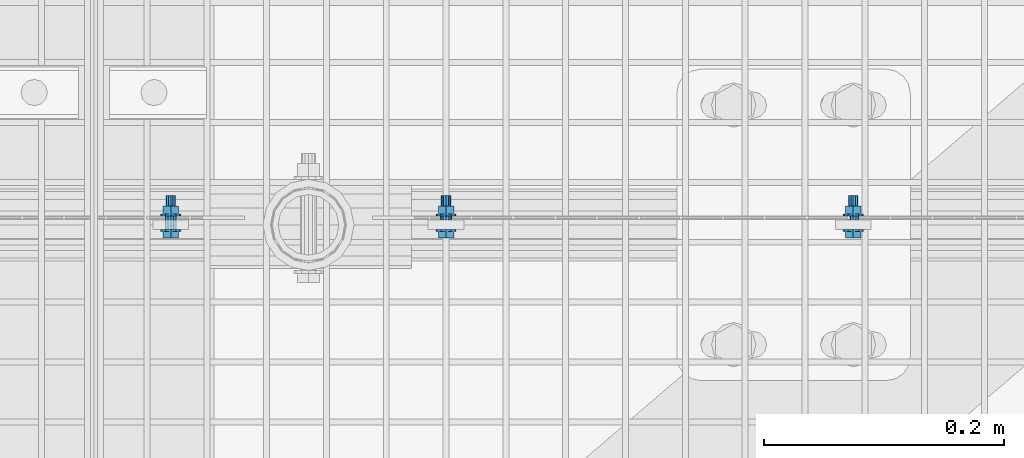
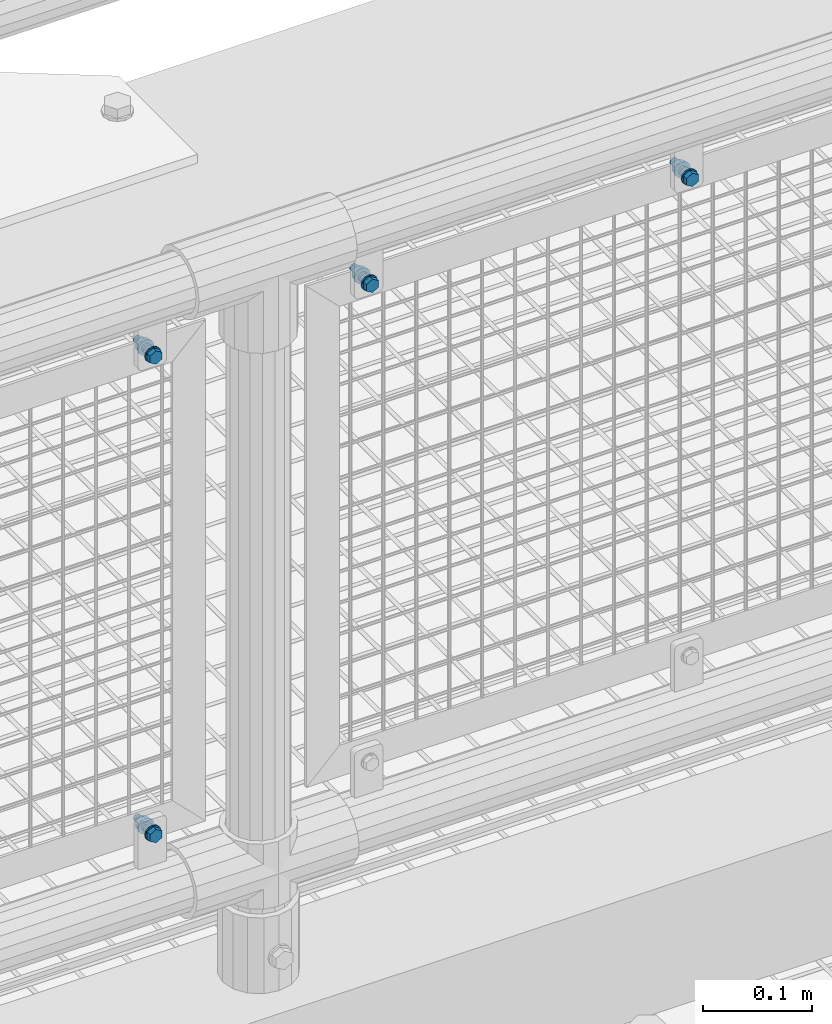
# One storey, part 81 of 1530: 4 mechanical fasteners.
"""IFC2X3 building model written with IfcOpenShell, lengths in millimetres."""

from ifc_helpers import new_model, si_unit, frame, origin_with_axes, place, context, subcontext, project, spatial, faceted_brep, source, transform, mapped, material, type_object, element, save


model = new_model("IFC2X3")

# Units and contexts
model_context = context("Model", 3, precision=1e-05, world=origin_with_axes())
body_context = subcontext(model_context, "Body", "Model", "MODEL_VIEW")
ifc_project = project(units=[si_unit("LENGTHUNIT", "METRE", prefix="MILLI"), si_unit("AREAUNIT", "SQUARE_METRE"), si_unit("VOLUMEUNIT", "CUBIC_METRE"), si_unit("MASSUNIT", "GRAM", prefix="KILO"), si_unit("TIMEUNIT", "SECOND"), si_unit("PLANEANGLEUNIT", "RADIAN"), si_unit("SOLIDANGLEUNIT", "STERADIAN"), si_unit("THERMODYNAMICTEMPERATUREUNIT", "DEGREE_CELSIUS"), si_unit("LUMINOUSINTENSITYUNIT", "LUMEN")], contexts=[model_context])

# Site, building, storey
site_placement = place(None, origin_with_axes())
site = spatial("IfcSite", under=ifc_project, at=site_placement, Name="Brattvåg", CompositionType="ELEMENT")
building_placement = place(site_placement, origin_with_axes())
building = spatial("IfcBuilding", under=site, at=building_placement, Name="Undefined", CompositionType="ELEMENT")
storey_placement = place(building_placement, origin_with_axes())
storey = spatial("IfcBuildingStorey", under=building, at=storey_placement, Name="Undefined", CompositionType="ELEMENT", Elevation=0.0)

# Mechanical fasteners
ifc_material = material(Name="8")
mechanical_fastener_type = type_object("IfcMechanicalFastenerType", Name="Bolt assembly")
shared_shape_1 = source(origin_with_axes(), body_context, "Body", "Brep", [
    faceted_brep([(7.50555349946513, -6.90000021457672, 0.0), (3.75277674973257, -6.90000021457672, 6.5), (-3.75277674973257, -6.90000021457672, 6.5), (-7.50555349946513, -6.90000021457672, 9.19165206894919e-16), (-3.75277674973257, -6.90000021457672, -6.5), (3.75277674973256, -6.90000021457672, -6.5), (3.75277674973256, -1.60000002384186, -6.5), (-3.75277674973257, -1.60000002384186, -6.5), (-7.50555349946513, -1.60000002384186, 9.19165206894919e-16), (-3.75277674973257, -1.60000002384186, 6.5), (3.75277674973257, -1.60000002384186, 6.5), (7.50555349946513, -1.60000002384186, 0.0), (4.0, -1.60000002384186, 0.0), (3.46410161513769, -1.60000002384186, 2.00000000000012), (1.99999999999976, -1.60000002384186, 3.46410161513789), (-4.14534392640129e-13, -1.60000002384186, 4.0), (-2.00000000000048, -1.60000002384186, 3.46410161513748), (-3.4641016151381, -1.60000002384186, 1.9999999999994), (-4.0, -1.60000002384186, -8.29068785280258e-13), (-3.46410161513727, -1.60000002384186, -2.00000000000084), (-1.99999999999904, -1.60000002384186, -3.46410161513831), (1.23916228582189e-12, -1.60000002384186, -4.0), (2.00000000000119, -1.60000002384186, -3.46410161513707), (3.46410161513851, -1.60000002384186, -1.99999999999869), (3.46410161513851, 28.3999999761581, -1.99999999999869), (2.00000000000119, 28.3999999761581, -3.46410161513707), (1.23916228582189e-12, 28.3999999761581, -4.0), (-1.99999999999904, 28.3999999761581, -3.46410161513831), (-3.46410161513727, 28.3999999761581, -2.00000000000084), (-4.0, 28.3999999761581, -8.29068785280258e-13), (-3.4641016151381, 28.3999999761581, 1.9999999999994), (-2.00000000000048, 28.3999999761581, 3.46410161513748), (-4.14534392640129e-13, 28.3999999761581, 4.0), (1.99999999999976, 28.3999999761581, 3.46410161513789), (3.46410161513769, 28.3999999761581, 2.00000000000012), (4.0, 28.3999999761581, 0.0), (8.5, -1.60000002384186, 0.0), (7.36121593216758, -1.60000002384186, 4.25000000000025), (4.24999999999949, -1.60000002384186, 7.36121593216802), (-8.80885584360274e-13, -1.60000002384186, 8.5), (-4.25000000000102, -1.60000002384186, 7.36121593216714), (-7.36121593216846, -1.60000002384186, 4.24999999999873), (-8.5, -1.60000002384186, -1.76177116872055e-12), (-7.3612159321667, -1.60000002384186, -4.25000000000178), (-4.24999999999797, -1.60000002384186, -7.3612159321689), (2.63321985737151e-12, -1.60000002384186, -8.5), (4.25000000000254, -1.60000002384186, -7.36121593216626), (7.36121593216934, -1.60000002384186, -4.24999999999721), (7.36121593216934, 0.0, -4.24999999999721), (4.25000000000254, 0.0, -7.36121593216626), (2.63321985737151e-12, 0.0, -8.5), (-4.24999999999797, 0.0, -7.3612159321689), (-7.3612159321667, 0.0, -4.25000000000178), (-8.5, 0.0, -1.76177116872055e-12), (-7.36121593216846, 0.0, 4.24999999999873), (-4.25000000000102, 0.0, 7.36121593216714), (-8.80885584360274e-13, 0.0, 8.5), (4.24999999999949, 0.0, 7.36121593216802), (7.36121593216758, 0.0, 4.25000000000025), (8.5, 0.0, 0.0), (8.5, 11.5015258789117, 0.0), (7.36121593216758, 11.5015258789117, 4.25000000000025), (4.24999999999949, 11.5015258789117, 7.36121593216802), (-8.80885584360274e-13, 11.5015258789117, 8.5), (-4.25000000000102, 11.5015258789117, 7.36121593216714), (-7.36121593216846, 11.5015258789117, 4.24999999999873), (-8.5, 11.5015258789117, -1.76177116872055e-12), (-7.3612159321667, 11.5015258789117, -4.25000000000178), (-4.24999999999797, 11.5015258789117, -7.3612159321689), (2.63321985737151e-12, 11.5015258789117, -8.5), (4.25000000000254, 11.5015258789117, -7.36121593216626), (7.36121593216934, 11.5015258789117, -4.24999999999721), (7.36121593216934, 13.1015259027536, -4.24999999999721), (4.25000000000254, 13.1015259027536, -7.36121593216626), (2.63321985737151e-12, 13.1015259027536, -8.5), (-4.24999999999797, 13.1015259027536, -7.3612159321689), (-7.3612159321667, 13.1015259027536, -4.25000000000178), (-8.5, 13.1015259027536, -1.76177116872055e-12), (-7.36121593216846, 13.1015259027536, 4.24999999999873), (-4.25000000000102, 13.1015259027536, 7.36121593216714), (-8.80885584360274e-13, 13.1015259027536, 8.5), (4.24999999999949, 13.1015259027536, 7.36121593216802), (7.36121593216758, 13.1015259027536, 4.25000000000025), (8.5, 13.1015259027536, 0.0), (7.50555349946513, 13.1015259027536, 0.0), (3.75277674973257, 13.1015259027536, 6.5), (-3.75277674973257, 13.1015259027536, 6.5), (-7.50555349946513, 13.1015259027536, 9.19165206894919e-16), (-3.75277674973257, 13.1015259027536, -6.5), (3.75277674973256, 13.1015259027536, -6.5), (3.75277674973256, 19.9015260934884, -6.5), (-3.75277674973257, 19.9015260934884, -6.5), (-7.50555349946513, 19.9015260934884, 9.19165206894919e-16), (-3.75277674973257, 19.9015260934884, 6.5), (3.75277674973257, 19.9015260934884, 6.5), (7.50555349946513, 19.9015260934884, 0.0)], [[[0, 1, 2, 3, 4, 5]], [[6, 7, 8, 9, 10, 11]], [[0, 11, 10, 1]], [[1, 10, 9, 2]], [[2, 9, 8, 3]], [[3, 8, 7, 4]], [[4, 7, 6, 5]], [[5, 6, 11, 0]], [[12, 13, 14, 15, 16, 17, 18, 19, 20, 21, 22, 23]], [[24, 25, 26, 27, 28, 29, 30, 31, 32, 33, 34, 35]], [[12, 35, 34, 13]], [[13, 34, 33, 14]], [[14, 33, 32, 15]], [[15, 32, 31, 16]], [[16, 31, 30, 17]], [[17, 30, 29, 18]], [[18, 29, 28, 19]], [[19, 28, 27, 20]], [[20, 27, 26, 21]], [[21, 26, 25, 22]], [[22, 25, 24, 23]], [[23, 24, 35, 12]], [[36, 37, 38, 39, 40, 41, 42, 43, 44, 45, 46, 47]], [[48, 49, 50, 51, 52, 53, 54, 55, 56, 57, 58, 59]], [[36, 59, 58, 37]], [[37, 58, 57, 38]], [[38, 57, 56, 39]], [[39, 56, 55, 40]], [[40, 55, 54, 41]], [[41, 54, 53, 42]], [[42, 53, 52, 43]], [[43, 52, 51, 44]], [[44, 51, 50, 45]], [[45, 50, 49, 46]], [[46, 49, 48, 47]], [[47, 48, 59, 36]], [[60, 61, 62, 63, 64, 65, 66, 67, 68, 69, 70, 71]], [[72, 73, 74, 75, 76, 77, 78, 79, 80, 81, 82, 83]], [[60, 83, 82, 61]], [[61, 82, 81, 62]], [[62, 81, 80, 63]], [[63, 80, 79, 64]], [[64, 79, 78, 65]], [[65, 78, 77, 66]], [[66, 77, 76, 67]], [[67, 76, 75, 68]], [[68, 75, 74, 69]], [[69, 74, 73, 70]], [[70, 73, 72, 71]], [[71, 72, 83, 60]], [[84, 85, 86, 87, 88, 89]], [[90, 91, 92, 93, 94, 95]], [[84, 95, 94, 85]], [[85, 94, 93, 86]], [[86, 93, 92, 87]], [[87, 92, 91, 88]], [[88, 91, 90, 89]], [[89, 90, 95, 84]]]),
    faceted_brep([(5.0, 0.1, 0.0), (4.33012701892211, 0.1, 2.50000000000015), (2.4999999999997, 0.1, 4.33012701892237), (-5.18167990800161e-13, 0.1, 5.0), (-2.5000000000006, 0.1, 4.33012701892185), (-4.33012701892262, 0.1, 2.49999999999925), (-5.0, 0.1, -1.03633598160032e-12), (-4.33012701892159, 0.1, -2.50000000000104), (-2.49999999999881, 0.1, -4.33012701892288), (1.54895285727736e-12, 0.1, -5.0), (2.50000000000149, 0.1, -4.33012701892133), (4.33012701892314, 0.1, -2.49999999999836), (4.33012701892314, 8.1, -2.49999999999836), (2.50000000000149, 8.1, -4.33012701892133), (1.54895285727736e-12, 8.1, -5.0), (-2.49999999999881, 8.1, -4.33012701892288), (-4.33012701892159, 8.1, -2.50000000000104), (-5.0, 8.1, -1.03633598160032e-12), (-4.33012701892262, 8.1, 2.49999999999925), (-2.5000000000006, 8.1, 4.33012701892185), (-5.18167990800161e-13, 8.1, 5.0), (2.4999999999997, 8.1, 4.33012701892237), (4.33012701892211, 8.1, 2.50000000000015), (5.0, 8.1, 0.0), (5.0, 8.40152587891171, 0.0), (4.33012701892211, 8.40152587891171, 2.50000000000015), (2.4999999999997, 8.40152587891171, 4.33012701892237), (-5.18167990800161e-13, 8.40152587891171, 5.0), (-2.5000000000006, 8.40152587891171, 4.33012701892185), (-4.33012701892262, 8.40152587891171, 2.49999999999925), (-5.0, 8.40152587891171, -1.03633598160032e-12), (-4.33012701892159, 8.40152587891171, -2.50000000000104), (-2.49999999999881, 8.40152587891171, -4.33012701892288), (1.54895285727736e-12, 8.40152587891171, -5.0), (2.50000000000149, 8.40152587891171, -4.33012701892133), (4.33012701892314, 8.40152587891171, -2.49999999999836), (4.33012701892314, 11.5015258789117, -2.49999999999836), (2.50000000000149, 11.5015258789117, -4.33012701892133), (1.54895285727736e-12, 11.5015258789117, -5.0), (-2.49999999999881, 11.5015258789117, -4.33012701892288), (-4.33012701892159, 11.5015258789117, -2.50000000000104), (-5.0, 11.5015258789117, -1.03633598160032e-12), (-4.33012701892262, 11.5015258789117, 2.49999999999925), (-2.5000000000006, 11.5015258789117, 4.33012701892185), (-5.18167990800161e-13, 11.5015258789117, 5.0), (2.4999999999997, 11.5015258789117, 4.33012701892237), (4.33012701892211, 11.5015258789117, 2.50000000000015), (5.0, 11.5015258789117, 0.0)], [[[0, 1, 2, 3, 4, 5, 6, 7, 8, 9, 10, 11]], [[12, 13, 14, 15, 16, 17, 18, 19, 20, 21, 22, 23]], [[0, 23, 22, 1]], [[1, 22, 21, 2]], [[2, 21, 20, 3]], [[3, 20, 19, 4]], [[4, 19, 18, 5]], [[5, 18, 17, 6]], [[6, 17, 16, 7]], [[7, 16, 15, 8]], [[8, 15, 14, 9]], [[9, 14, 13, 10]], [[10, 13, 12, 11]], [[11, 12, 23, 0]], [[24, 25, 26, 27, 28, 29, 30, 31, 32, 33, 34, 35]], [[36, 37, 38, 39, 40, 41, 42, 43, 44, 45, 46, 47]], [[24, 47, 46, 25]], [[25, 46, 45, 26]], [[26, 45, 44, 27]], [[27, 44, 43, 28]], [[28, 43, 42, 29]], [[29, 42, 41, 30]], [[30, 41, 40, 31]], [[31, 40, 39, 32]], [[32, 39, 38, 33]], [[33, 38, 37, 34]], [[34, 37, 36, 35]], [[35, 36, 47, 24]]]),
])
for number, where, z_axis, x_axis, name in (
    (1, (5535.85095214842, 7660.49950027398, 889.680069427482), (-1.0, 1.99999855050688e-09, 0.0), (0.0, 0.0, 1.0), "Bolt assembly"),
    (2, (5875.85110473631, 7660.49950027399, 889.680069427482), (-1.0, 1.99999855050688e-09, 0.0), (0.0, 0.0, 1.0), "Bolt assembly"),
):
    element("IfcMechanicalFastener", number, at=place(storey_placement, frame(where, z_axis=z_axis, x_axis=x_axis)), inside=storey, type_object=mechanical_fastener_type, material=ifc_material, Name=name, NominalDiameter=8.0, NominalLength=30.0, context=body_context, shape_type="MappedRepresentation", body=[
        mapped(shared_shape_1, transform((0.0, 0.0, 0.0))),
    ])
shared_shape_2 = source(origin_with_axes(), body_context, "Body", "Brep", [
    faceted_brep([(7.50555349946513, -6.90000021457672, 0.0), (3.75277674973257, -6.90000021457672, 6.5), (-3.75277674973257, -6.90000021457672, 6.5), (-7.50555349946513, -6.90000021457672, 9.19165206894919e-16), (-3.75277674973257, -6.90000021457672, -6.5), (3.75277674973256, -6.90000021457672, -6.5), (3.75277674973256, -1.60000002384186, -6.5), (-3.75277674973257, -1.60000002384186, -6.5), (-7.50555349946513, -1.60000002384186, 9.19165206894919e-16), (-3.75277674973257, -1.60000002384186, 6.5), (3.75277674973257, -1.60000002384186, 6.5), (7.50555349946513, -1.60000002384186, 0.0), (4.0, -1.60000002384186, 0.0), (3.46410161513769, -1.60000002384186, 2.00000000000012), (1.99999999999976, -1.60000002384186, 3.46410161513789), (-4.14534392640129e-13, -1.60000002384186, 4.0), (-2.00000000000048, -1.60000002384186, 3.46410161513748), (-3.4641016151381, -1.60000002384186, 1.9999999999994), (-4.0, -1.60000002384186, -8.29068785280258e-13), (-3.46410161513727, -1.60000002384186, -2.00000000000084), (-1.99999999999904, -1.60000002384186, -3.46410161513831), (1.23916228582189e-12, -1.60000002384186, -4.0), (2.00000000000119, -1.60000002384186, -3.46410161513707), (3.46410161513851, -1.60000002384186, -1.99999999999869), (3.46410161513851, 28.3999999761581, -1.99999999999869), (2.00000000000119, 28.3999999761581, -3.46410161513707), (1.23916228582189e-12, 28.3999999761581, -4.0), (-1.99999999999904, 28.3999999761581, -3.46410161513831), (-3.46410161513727, 28.3999999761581, -2.00000000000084), (-4.0, 28.3999999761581, -8.29068785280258e-13), (-3.4641016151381, 28.3999999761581, 1.9999999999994), (-2.00000000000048, 28.3999999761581, 3.46410161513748), (-4.14534392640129e-13, 28.3999999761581, 4.0), (1.99999999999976, 28.3999999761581, 3.46410161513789), (3.46410161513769, 28.3999999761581, 2.00000000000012), (4.0, 28.3999999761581, 0.0), (8.5, -1.60000002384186, 0.0), (7.36121593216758, -1.60000002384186, 4.25000000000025), (4.24999999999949, -1.60000002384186, 7.36121593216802), (-8.80885584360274e-13, -1.60000002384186, 8.5), (-4.25000000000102, -1.60000002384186, 7.36121593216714), (-7.36121593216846, -1.60000002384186, 4.24999999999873), (-8.5, -1.60000002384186, -1.76177116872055e-12), (-7.3612159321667, -1.60000002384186, -4.25000000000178), (-4.24999999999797, -1.60000002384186, -7.3612159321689), (2.63321985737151e-12, -1.60000002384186, -8.5), (4.25000000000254, -1.60000002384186, -7.36121593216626), (7.36121593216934, -1.60000002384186, -4.24999999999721), (7.36121593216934, 0.0, -4.24999999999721), (4.25000000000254, 0.0, -7.36121593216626), (2.63321985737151e-12, 0.0, -8.5), (-4.24999999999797, 0.0, -7.3612159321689), (-7.3612159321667, 0.0, -4.25000000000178), (-8.5, 0.0, -1.76177116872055e-12), (-7.36121593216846, 0.0, 4.24999999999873), (-4.25000000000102, 0.0, 7.36121593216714), (-8.80885584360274e-13, 0.0, 8.5), (4.24999999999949, 0.0, 7.36121593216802), (7.36121593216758, 0.0, 4.25000000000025), (8.5, 0.0, 0.0), (8.5, 11.5021362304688, 0.0), (7.36121593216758, 11.5021362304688, 4.25000000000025), (4.24999999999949, 11.5021362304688, 7.36121593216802), (-8.80885584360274e-13, 11.5021362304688, 8.5), (-4.25000000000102, 11.5021362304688, 7.36121593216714), (-7.36121593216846, 11.5021362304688, 4.24999999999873), (-8.5, 11.5021362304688, -1.76177116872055e-12), (-7.3612159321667, 11.5021362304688, -4.25000000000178), (-4.24999999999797, 11.5021362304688, -7.3612159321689), (2.63321985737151e-12, 11.5021362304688, -8.5), (4.25000000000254, 11.5021362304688, -7.36121593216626), (7.36121593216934, 11.5021362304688, -4.24999999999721), (7.36121593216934, 13.1021362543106, -4.24999999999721), (4.25000000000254, 13.1021362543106, -7.36121593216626), (2.63321985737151e-12, 13.1021362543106, -8.5), (-4.24999999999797, 13.1021362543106, -7.3612159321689), (-7.3612159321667, 13.1021362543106, -4.25000000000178), (-8.5, 13.1021362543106, -1.76177116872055e-12), (-7.36121593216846, 13.1021362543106, 4.24999999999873), (-4.25000000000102, 13.1021362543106, 7.36121593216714), (-8.80885584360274e-13, 13.1021362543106, 8.5), (4.24999999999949, 13.1021362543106, 7.36121593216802), (7.36121593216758, 13.1021362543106, 4.25000000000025), (8.5, 13.1021362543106, 0.0), (7.50555349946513, 13.1021362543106, 0.0), (3.75277674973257, 13.1021362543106, 6.5), (-3.75277674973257, 13.1021362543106, 6.5), (-7.50555349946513, 13.1021362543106, 9.19165206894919e-16), (-3.75277674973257, 13.1021362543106, -6.5), (3.75277674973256, 13.1021362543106, -6.5), (3.75277674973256, 19.9021364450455, -6.5), (-3.75277674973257, 19.9021364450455, -6.5), (-7.50555349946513, 19.9021364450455, 9.19165206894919e-16), (-3.75277674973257, 19.9021364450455, 6.5), (3.75277674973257, 19.9021364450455, 6.5), (7.50555349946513, 19.9021364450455, 0.0)], [[[0, 1, 2, 3, 4, 5]], [[6, 7, 8, 9, 10, 11]], [[0, 11, 10, 1]], [[1, 10, 9, 2]], [[2, 9, 8, 3]], [[3, 8, 7, 4]], [[4, 7, 6, 5]], [[5, 6, 11, 0]], [[12, 13, 14, 15, 16, 17, 18, 19, 20, 21, 22, 23]], [[24, 25, 26, 27, 28, 29, 30, 31, 32, 33, 34, 35]], [[12, 35, 34, 13]], [[13, 34, 33, 14]], [[14, 33, 32, 15]], [[15, 32, 31, 16]], [[16, 31, 30, 17]], [[17, 30, 29, 18]], [[18, 29, 28, 19]], [[19, 28, 27, 20]], [[20, 27, 26, 21]], [[21, 26, 25, 22]], [[22, 25, 24, 23]], [[23, 24, 35, 12]], [[36, 37, 38, 39, 40, 41, 42, 43, 44, 45, 46, 47]], [[48, 49, 50, 51, 52, 53, 54, 55, 56, 57, 58, 59]], [[36, 59, 58, 37]], [[37, 58, 57, 38]], [[38, 57, 56, 39]], [[39, 56, 55, 40]], [[40, 55, 54, 41]], [[41, 54, 53, 42]], [[42, 53, 52, 43]], [[43, 52, 51, 44]], [[44, 51, 50, 45]], [[45, 50, 49, 46]], [[46, 49, 48, 47]], [[47, 48, 59, 36]], [[60, 61, 62, 63, 64, 65, 66, 67, 68, 69, 70, 71]], [[72, 73, 74, 75, 76, 77, 78, 79, 80, 81, 82, 83]], [[60, 83, 82, 61]], [[61, 82, 81, 62]], [[62, 81, 80, 63]], [[63, 80, 79, 64]], [[64, 79, 78, 65]], [[65, 78, 77, 66]], [[66, 77, 76, 67]], [[67, 76, 75, 68]], [[68, 75, 74, 69]], [[69, 74, 73, 70]], [[70, 73, 72, 71]], [[71, 72, 83, 60]], [[84, 85, 86, 87, 88, 89]], [[90, 91, 92, 93, 94, 95]], [[84, 95, 94, 85]], [[85, 94, 93, 86]], [[86, 93, 92, 87]], [[87, 92, 91, 88]], [[88, 91, 90, 89]], [[89, 90, 95, 84]]]),
    faceted_brep([(5.0, 0.1, 0.0), (4.33012701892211, 0.1, 2.50000000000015), (2.4999999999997, 0.1, 4.33012701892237), (-5.18167990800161e-13, 0.1, 5.0), (-2.5000000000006, 0.1, 4.33012701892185), (-4.33012701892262, 0.1, 2.49999999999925), (-5.0, 0.1, -1.03633598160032e-12), (-4.33012701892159, 0.1, -2.50000000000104), (-2.49999999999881, 0.1, -4.33012701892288), (1.54895285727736e-12, 0.1, -5.0), (2.50000000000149, 0.1, -4.33012701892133), (4.33012701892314, 0.1, -2.49999999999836), (4.33012701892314, 8.1, -2.49999999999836), (2.50000000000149, 8.1, -4.33012701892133), (1.54895285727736e-12, 8.1, -5.0), (-2.49999999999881, 8.1, -4.33012701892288), (-4.33012701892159, 8.1, -2.50000000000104), (-5.0, 8.1, -1.03633598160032e-12), (-4.33012701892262, 8.1, 2.49999999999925), (-2.5000000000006, 8.1, 4.33012701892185), (-5.18167990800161e-13, 8.1, 5.0), (2.4999999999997, 8.1, 4.33012701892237), (4.33012701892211, 8.1, 2.50000000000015), (5.0, 8.1, 0.0), (5.0, 8.40213623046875, 0.0), (4.33012701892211, 8.40213623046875, 2.50000000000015), (2.4999999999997, 8.40213623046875, 4.33012701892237), (-5.18167990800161e-13, 8.40213623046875, 5.0), (-2.5000000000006, 8.40213623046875, 4.33012701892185), (-4.33012701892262, 8.40213623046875, 2.49999999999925), (-5.0, 8.40213623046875, -1.03633598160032e-12), (-4.33012701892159, 8.40213623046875, -2.50000000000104), (-2.49999999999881, 8.40213623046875, -4.33012701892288), (1.54895285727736e-12, 8.40213623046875, -5.0), (2.50000000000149, 8.40213623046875, -4.33012701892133), (4.33012701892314, 8.40213623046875, -2.49999999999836), (4.33012701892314, 11.5021362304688, -2.49999999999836), (2.50000000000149, 11.5021362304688, -4.33012701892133), (1.54895285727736e-12, 11.5021362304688, -5.0), (-2.49999999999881, 11.5021362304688, -4.33012701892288), (-4.33012701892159, 11.5021362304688, -2.50000000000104), (-5.0, 11.5021362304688, -1.03633598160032e-12), (-4.33012701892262, 11.5021362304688, 2.49999999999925), (-2.5000000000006, 11.5021362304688, 4.33012701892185), (-5.18167990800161e-13, 11.5021362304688, 5.0), (2.4999999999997, 11.5021362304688, 4.33012701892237), (4.33012701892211, 11.5021362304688, 2.50000000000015), (5.0, 11.5021362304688, 0.0)], [[[0, 1, 2, 3, 4, 5, 6, 7, 8, 9, 10, 11]], [[12, 13, 14, 15, 16, 17, 18, 19, 20, 21, 22, 23]], [[0, 23, 22, 1]], [[1, 22, 21, 2]], [[2, 21, 20, 3]], [[3, 20, 19, 4]], [[4, 19, 18, 5]], [[5, 18, 17, 6]], [[6, 17, 16, 7]], [[7, 16, 15, 8]], [[8, 15, 14, 9]], [[9, 14, 13, 10]], [[10, 13, 12, 11]], [[11, 12, 23, 0]], [[24, 25, 26, 27, 28, 29, 30, 31, 32, 33, 34, 35]], [[36, 37, 38, 39, 40, 41, 42, 43, 44, 45, 46, 47]], [[24, 47, 46, 25]], [[25, 46, 45, 26]], [[26, 45, 44, 27]], [[27, 44, 43, 28]], [[28, 43, 42, 29]], [[29, 42, 41, 30]], [[30, 41, 40, 31]], [[31, 40, 39, 32]], [[32, 39, 38, 33]], [[33, 38, 37, 34]], [[34, 37, 36, 35]], [[35, 36, 47, 24]]]),
])
mechanical_fastener_1_placement = place(storey_placement, frame((5306.00009155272, 7660.49888992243, 889.679782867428), z_axis=(-1.0, 1.99999855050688e-09, 0.0), x_axis=(0.0, 0.0, 1.0)))
element("IfcMechanicalFastener", 3, at=mechanical_fastener_1_placement, inside=storey, type_object=mechanical_fastener_type, material=ifc_material, Name="Bolt assembly", NominalDiameter=8.0, NominalLength=30.0, context=body_context, shape_type="MappedRepresentation", body=[
    mapped(shared_shape_2, transform((0.0, 0.0, 0.0))),
])
shared_shape_3 = source(origin_with_axes(), body_context, "Body", "Brep", [
    faceted_brep([(7.50555349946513, -6.899000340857, 0.0), (3.75277674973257, -6.899000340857, 6.5), (-3.75277674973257, -6.899000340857, 6.5), (-7.50555349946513, -6.899000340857, 9.19165206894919e-16), (-3.75277674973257, -6.899000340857, -6.5), (3.75277674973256, -6.899000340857, -6.5), (3.75277674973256, -1.59900015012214, -6.5), (-3.75277674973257, -1.59900015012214, -6.5), (-7.50555349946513, -1.59900015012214, 9.19165206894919e-16), (-3.75277674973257, -1.59900015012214, 6.5), (3.75277674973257, -1.59900015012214, 6.5), (7.50555349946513, -1.59900015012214, 0.0), (4.0, -1.59900015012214, 0.0), (3.46410161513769, -1.59900015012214, 2.00000000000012), (1.99999999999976, -1.59900015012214, 3.46410161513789), (-4.14534392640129e-13, -1.59900015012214, 4.0), (-2.00000000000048, -1.59900015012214, 3.46410161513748), (-3.4641016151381, -1.59900015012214, 1.9999999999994), (-4.0, -1.59900015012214, -8.29068785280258e-13), (-3.46410161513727, -1.59900015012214, -2.00000000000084), (-1.99999999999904, -1.59900015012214, -3.46410161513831), (1.23916228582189e-12, -1.59900015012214, -4.0), (2.00000000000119, -1.59900015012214, -3.46410161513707), (3.46410161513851, -1.59900015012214, -1.99999999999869), (3.46410161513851, 28.4009998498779, -1.99999999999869), (2.00000000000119, 28.4009998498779, -3.46410161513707), (1.23916228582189e-12, 28.4009998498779, -4.0), (-1.99999999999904, 28.4009998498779, -3.46410161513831), (-3.46410161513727, 28.4009998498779, -2.00000000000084), (-4.0, 28.4009998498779, -8.29068785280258e-13), (-3.4641016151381, 28.4009998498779, 1.9999999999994), (-2.00000000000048, 28.4009998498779, 3.46410161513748), (-4.14534392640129e-13, 28.4009998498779, 4.0), (1.99999999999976, 28.4009998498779, 3.46410161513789), (3.46410161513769, 28.4009998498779, 2.00000000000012), (4.0, 28.4009998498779, 0.0), (8.5, -1.59900015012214, 0.0), (7.36121593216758, -1.59900015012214, 4.25000000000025), (4.24999999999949, -1.59900015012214, 7.36121593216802), (-8.80885584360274e-13, -1.59900015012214, 8.5), (-4.25000000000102, -1.59900015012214, 7.36121593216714), (-7.36121593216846, -1.59900015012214, 4.24999999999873), (-8.5, -1.59900015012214, -1.76177116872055e-12), (-7.3612159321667, -1.59900015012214, -4.25000000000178), (-4.24999999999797, -1.59900015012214, -7.3612159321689), (2.63321985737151e-12, -1.59900015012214, -8.5), (4.25000000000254, -1.59900015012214, -7.36121593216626), (7.36121593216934, -1.59900015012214, -4.24999999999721), (7.36121593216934, 0.000999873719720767, -4.24999999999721), (4.25000000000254, 0.000999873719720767, -7.36121593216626), (2.63321985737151e-12, 0.000999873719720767, -8.5), (-4.24999999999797, 0.000999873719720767, -7.3612159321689), (-7.3612159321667, 0.000999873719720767, -4.25000000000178), (-8.5, 0.000999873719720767, -1.76177116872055e-12), (-7.36121593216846, 0.000999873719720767, 4.24999999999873), (-4.25000000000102, 0.000999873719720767, 7.36121593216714), (-8.80885584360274e-13, 0.000999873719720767, 8.5), (4.24999999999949, 0.000999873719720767, 7.36121593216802), (7.36121593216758, 0.000999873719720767, 4.25000000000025), (8.5, 0.000999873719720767, 0.0), (8.5, 11.5022147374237, 0.0), (7.36121593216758, 11.5022147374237, 4.25000000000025), (4.24999999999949, 11.5022147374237, 7.36121593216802), (-8.80885584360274e-13, 11.5022147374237, 8.5), (-4.25000000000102, 11.5022147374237, 7.36121593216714), (-7.36121593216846, 11.5022147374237, 4.24999999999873), (-8.5, 11.5022147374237, -1.76177116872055e-12), (-7.3612159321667, 11.5022147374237, -4.25000000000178), (-4.24999999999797, 11.5022147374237, -7.3612159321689), (2.63321985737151e-12, 11.5022147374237, -8.5), (4.25000000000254, 11.5022147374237, -7.36121593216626), (7.36121593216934, 11.5022147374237, -4.24999999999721), (7.36121593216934, 13.1022147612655, -4.24999999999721), (4.25000000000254, 13.1022147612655, -7.36121593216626), (2.63321985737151e-12, 13.1022147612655, -8.5), (-4.24999999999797, 13.1022147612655, -7.3612159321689), (-7.3612159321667, 13.1022147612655, -4.25000000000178), (-8.5, 13.1022147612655, -1.76177116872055e-12), (-7.36121593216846, 13.1022147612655, 4.24999999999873), (-4.25000000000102, 13.1022147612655, 7.36121593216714), (-8.80885584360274e-13, 13.1022147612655, 8.5), (4.24999999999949, 13.1022147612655, 7.36121593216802), (7.36121593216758, 13.1022147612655, 4.25000000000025), (8.5, 13.1022147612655, 0.0), (7.50555349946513, 13.1022147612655, 0.0), (3.75277674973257, 13.1022147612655, 6.5), (-3.75277674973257, 13.1022147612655, 6.5), (-7.50555349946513, 13.1022147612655, 9.19165206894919e-16), (-3.75277674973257, 13.1022147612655, -6.5), (3.75277674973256, 13.1022147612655, -6.5), (3.75277674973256, 19.9022149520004, -6.5), (-3.75277674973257, 19.9022149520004, -6.5), (-7.50555349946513, 19.9022149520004, 9.19165206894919e-16), (-3.75277674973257, 19.9022149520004, 6.5), (3.75277674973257, 19.9022149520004, 6.5), (7.50555349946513, 19.9022149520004, 0.0)], [[[0, 1, 2, 3, 4, 5]], [[6, 7, 8, 9, 10, 11]], [[0, 11, 10, 1]], [[1, 10, 9, 2]], [[2, 9, 8, 3]], [[3, 8, 7, 4]], [[4, 7, 6, 5]], [[5, 6, 11, 0]], [[12, 13, 14, 15, 16, 17, 18, 19, 20, 21, 22, 23]], [[24, 25, 26, 27, 28, 29, 30, 31, 32, 33, 34, 35]], [[12, 35, 34, 13]], [[13, 34, 33, 14]], [[14, 33, 32, 15]], [[15, 32, 31, 16]], [[16, 31, 30, 17]], [[17, 30, 29, 18]], [[18, 29, 28, 19]], [[19, 28, 27, 20]], [[20, 27, 26, 21]], [[21, 26, 25, 22]], [[22, 25, 24, 23]], [[23, 24, 35, 12]], [[36, 37, 38, 39, 40, 41, 42, 43, 44, 45, 46, 47]], [[48, 49, 50, 51, 52, 53, 54, 55, 56, 57, 58, 59]], [[36, 59, 58, 37]], [[37, 58, 57, 38]], [[38, 57, 56, 39]], [[39, 56, 55, 40]], [[40, 55, 54, 41]], [[41, 54, 53, 42]], [[42, 53, 52, 43]], [[43, 52, 51, 44]], [[44, 51, 50, 45]], [[45, 50, 49, 46]], [[46, 49, 48, 47]], [[47, 48, 59, 36]], [[60, 61, 62, 63, 64, 65, 66, 67, 68, 69, 70, 71]], [[72, 73, 74, 75, 76, 77, 78, 79, 80, 81, 82, 83]], [[60, 83, 82, 61]], [[61, 82, 81, 62]], [[62, 81, 80, 63]], [[63, 80, 79, 64]], [[64, 79, 78, 65]], [[65, 78, 77, 66]], [[66, 77, 76, 67]], [[67, 76, 75, 68]], [[68, 75, 74, 69]], [[69, 74, 73, 70]], [[70, 73, 72, 71]], [[71, 72, 83, 60]], [[84, 85, 86, 87, 88, 89]], [[90, 91, 92, 93, 94, 95]], [[84, 95, 94, 85]], [[85, 94, 93, 86]], [[86, 93, 92, 87]], [[87, 92, 91, 88]], [[88, 91, 90, 89]], [[89, 90, 95, 84]]]),
    faceted_brep([(5.0, 0.100999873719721, 0.0), (4.33012701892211, 0.100999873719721, 2.50000000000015), (2.4999999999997, 0.100999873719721, 4.33012701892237), (-5.18167990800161e-13, 0.100999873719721, 5.0), (-2.5000000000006, 0.100999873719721, 4.33012701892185), (-4.33012701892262, 0.100999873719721, 2.49999999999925), (-5.0, 0.100999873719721, -1.03633598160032e-12), (-4.33012701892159, 0.100999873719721, -2.50000000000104), (-2.49999999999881, 0.100999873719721, -4.33012701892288), (1.54895285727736e-12, 0.100999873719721, -5.0), (2.50000000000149, 0.100999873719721, -4.33012701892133), (4.33012701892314, 0.100999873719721, -2.49999999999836), (4.33012701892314, 8.10099988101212, -2.49999999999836), (2.50000000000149, 8.10099988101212, -4.33012701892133), (1.54895285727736e-12, 8.10099988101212, -5.0), (-2.49999999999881, 8.10099988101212, -4.33012701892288), (-4.33012701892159, 8.10099988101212, -2.50000000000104), (-5.0, 8.10099988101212, -1.03633598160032e-12), (-4.33012701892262, 8.10099988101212, 2.49999999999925), (-2.5000000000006, 8.10099988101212, 4.33012701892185), (-5.18167990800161e-13, 8.10099988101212, 5.0), (2.4999999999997, 8.10099988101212, 4.33012701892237), (4.33012701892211, 8.10099988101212, 2.50000000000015), (5.0, 8.10099988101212, 0.0), (5.0, 8.40221473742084, 0.0), (4.33012701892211, 8.40221473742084, 2.50000000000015), (2.4999999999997, 8.40221473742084, 4.33012701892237), (-5.18167990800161e-13, 8.40221473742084, 5.0), (-2.5000000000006, 8.40221473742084, 4.33012701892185), (-4.33012701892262, 8.40221473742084, 2.49999999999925), (-5.0, 8.40221473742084, -1.03633598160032e-12), (-4.33012701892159, 8.40221473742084, -2.50000000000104), (-2.49999999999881, 8.40221473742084, -4.33012701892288), (1.54895285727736e-12, 8.40221473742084, -5.0), (2.50000000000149, 8.40221473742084, -4.33012701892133), (4.33012701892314, 8.40221473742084, -2.49999999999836), (4.33012701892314, 11.5022147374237, -2.49999999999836), (2.50000000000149, 11.5022147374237, -4.33012701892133), (1.54895285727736e-12, 11.5022147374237, -5.0), (-2.49999999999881, 11.5022147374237, -4.33012701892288), (-4.33012701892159, 11.5022147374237, -2.50000000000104), (-5.0, 11.5022147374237, -1.03633598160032e-12), (-4.33012701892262, 11.5022147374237, 2.49999999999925), (-2.5000000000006, 11.5022147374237, 4.33012701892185), (-5.18167990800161e-13, 11.5022147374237, 5.0), (2.4999999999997, 11.5022147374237, 4.33012701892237), (4.33012701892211, 11.5022147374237, 2.50000000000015), (5.0, 11.5022147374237, 0.0)], [[[0, 1, 2, 3, 4, 5, 6, 7, 8, 9, 10, 11]], [[12, 13, 14, 15, 16, 17, 18, 19, 20, 21, 22, 23]], [[0, 23, 22, 1]], [[1, 22, 21, 2]], [[2, 21, 20, 3]], [[3, 20, 19, 4]], [[4, 19, 18, 5]], [[5, 18, 17, 6]], [[6, 17, 16, 7]], [[7, 16, 15, 8]], [[8, 15, 14, 9]], [[9, 14, 13, 10]], [[10, 13, 12, 11]], [[11, 12, 23, 0]], [[24, 25, 26, 27, 28, 29, 30, 31, 32, 33, 34, 35]], [[36, 37, 38, 39, 40, 41, 42, 43, 44, 45, 46, 47]], [[24, 47, 46, 25]], [[25, 46, 45, 26]], [[26, 45, 44, 27]], [[27, 44, 43, 28]], [[28, 43, 42, 29]], [[29, 42, 41, 30]], [[30, 41, 40, 31]], [[31, 40, 39, 32]], [[32, 39, 38, 33]], [[33, 38, 37, 34]], [[34, 37, 36, 35]], [[35, 36, 47, 24]]]),
])
mechanical_fastener_2_placement = place(storey_placement, frame((5305.99974822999, 7660.49888992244, 352.300205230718), z_axis=(-1.0, 1.99999855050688e-09, 0.0), x_axis=(0.0, 0.0, 1.0)))
element("IfcMechanicalFastener", 4, at=mechanical_fastener_2_placement, inside=storey, type_object=mechanical_fastener_type, material=ifc_material, Name="Bolt assembly", NominalDiameter=8.0, NominalLength=30.0, context=body_context, shape_type="MappedRepresentation", body=[
    mapped(shared_shape_3, transform((0.0, 0.0, 0.0))),
])

save(model, "model.ifc")
